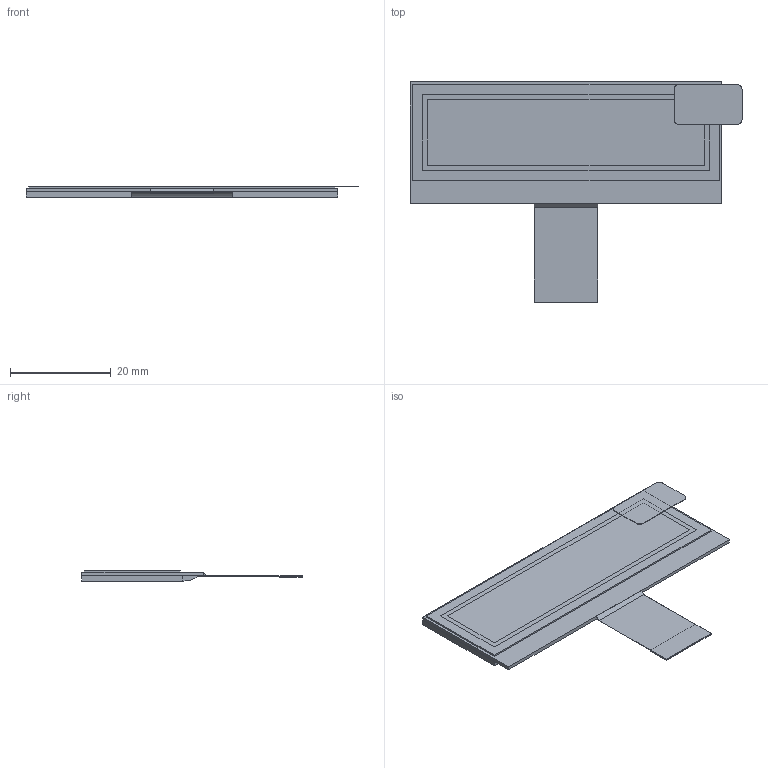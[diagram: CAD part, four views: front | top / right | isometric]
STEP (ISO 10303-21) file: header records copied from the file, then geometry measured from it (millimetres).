
FILE_DESCRIPTION (( 'STEP AP214' ), '1' );
FILE_NAME ('CFAL12832N0-022W.STEP', '2026-08-25T09:18:25', ( '' ), ( '' ), 'SwSTEP 2.0', 'SolidWorks 2026', '' );
FILE_SCHEMA (( 'AUTOMOTIVE_DESIGN' ));
Length unit declared in the file: millimetre
Products named in the file (1): CFAL12832N0-022W
Bounding box: 66.02 x 43.8 x 2.35 mm (x, y, z)
Volume: 3045.7 mm3; surface area: 11555.8 mm2
Topology: 8 solids, 8 shells, 59 faces, 129 edges, 88 vertices
Faces by surface type: plane 54, cylinder 5
Entity records: 1830 total; most frequent: CARTESIAN_POINT 277, DIRECTION 259, ORIENTED_EDGE 258, EDGE_CURVE 129, LINE 119, VECTOR 119, VERTEX_POINT 88, AXIS2_PLACEMENT_3D 70
